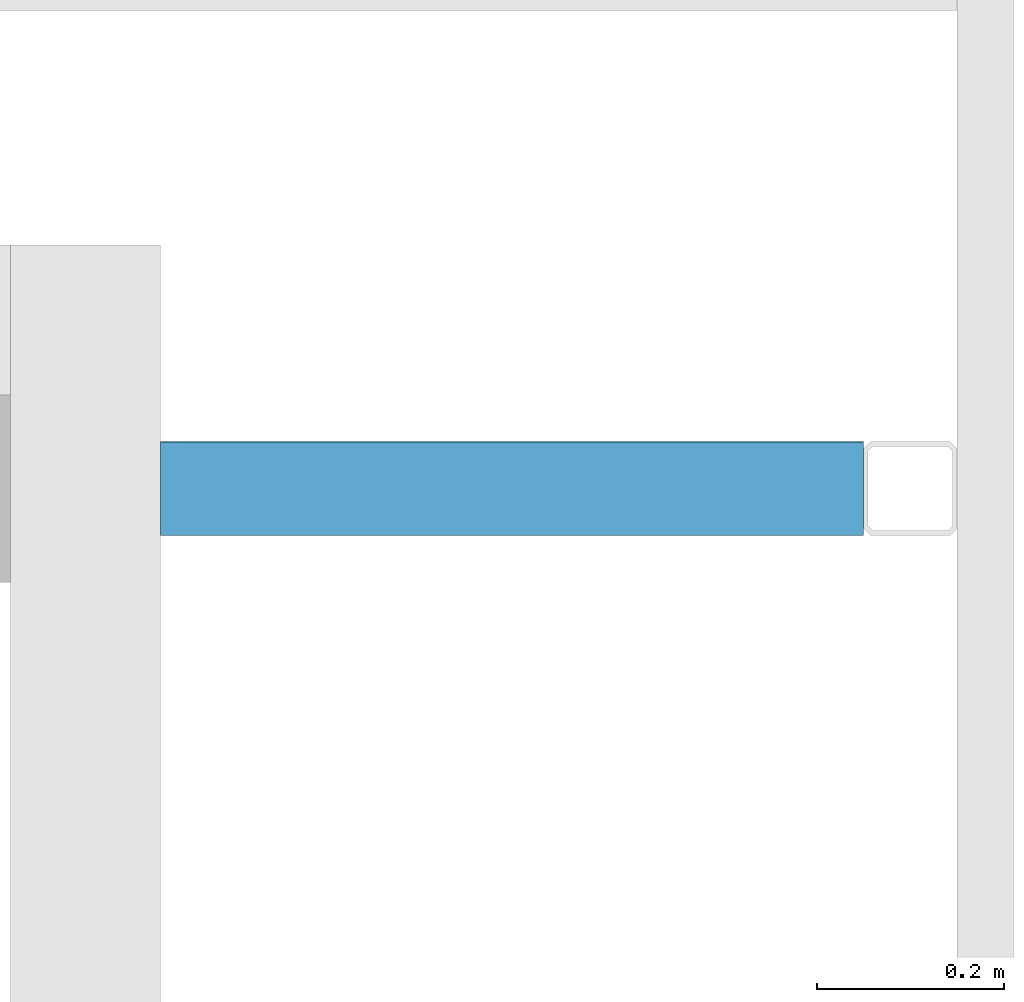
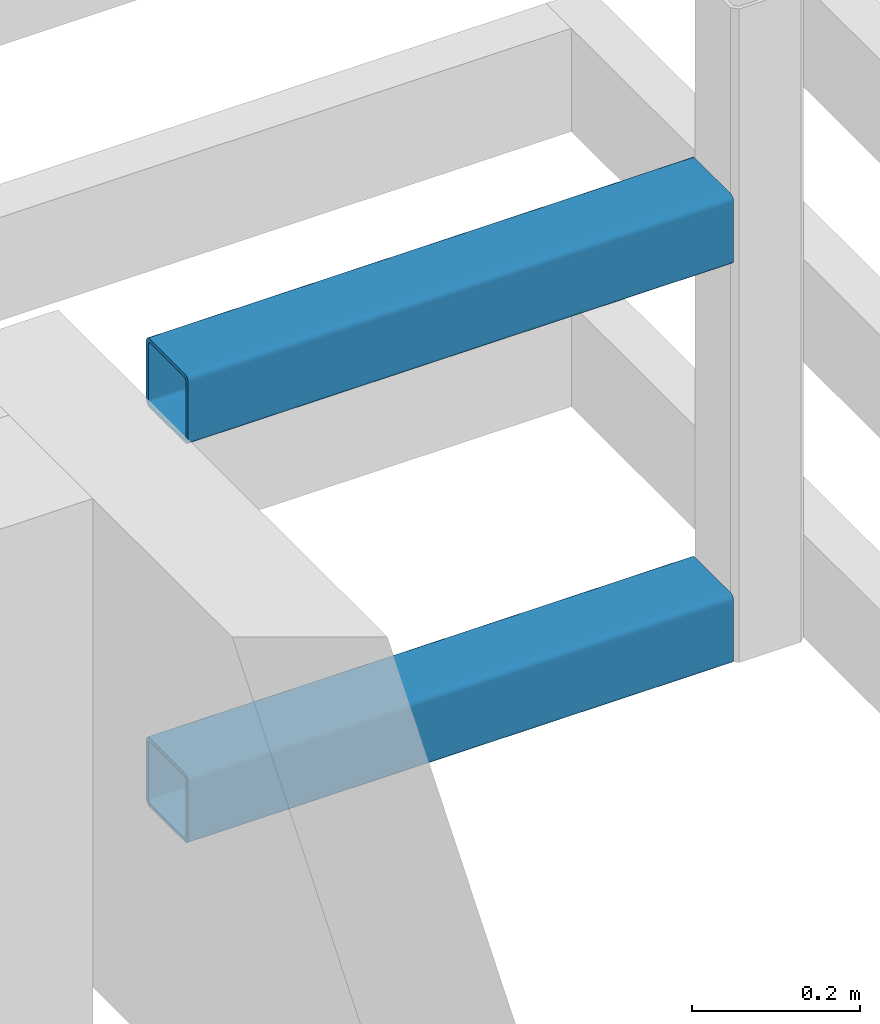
# One storey, part 42 of 42: 2 members.
"""IFC4 building model written with IfcOpenShell, lengths in metres."""

from ifc_helpers import new_model, entity, si_unit, converted_unit, derived_unit, frame, origin, place, context, subcontext, project, spatial, faceted_brep, material, element, save


model = new_model("IFC4")

# Units and contexts
model_context = context("Model", 3, precision=1e-05, world=origin())
plan_context = context("Plan", 2, precision=1e-05, world=origin())
body_context = subcontext(model_context, "Body", "Model", "MODEL_VIEW")
ifc_project = project(units=[si_unit("LENGTHUNIT", "METRE"), si_unit("AREAUNIT", "SQUARE_METRE"), si_unit("VOLUMEUNIT", "CUBIC_METRE"), si_unit("MASSUNIT", "GRAM", prefix="KILO"), converted_unit("PLANEANGLEUNIT", "DEGREE", entity("IfcPlaneAngleMeasure", 0.0174532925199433), si_unit("PLANEANGLEUNIT", "RADIAN"), dimensions=[0, 0, 0, 0, 0, 0, 0]), derived_unit("THERMALTRANSMITTANCEUNIT", [(si_unit("POWERUNIT", "WATT"), 1), (si_unit("THERMODYNAMICTEMPERATUREUNIT", "KELVIN"), -1), (si_unit("LENGTHUNIT", "METRE"), -2)]), derived_unit("VOLUMETRICFLOWRATEUNIT", [(si_unit("LENGTHUNIT", "METRE"), 3), (converted_unit("TIMEUNIT", "hour", entity("IfcTimeMeasure", 3600.0), si_unit("TIMEUNIT", "SECOND"), dimensions=[0, 0, 1, 0, 0, 0, 0]), -1), (si_unit("LENGTHUNIT", "METRE"), -1)])], contexts=[model_context, plan_context])

# Site, building, storey
site_placement = place(None, origin())
site = spatial("IfcSite", under=ifc_project, at=site_placement, Name="Site", CompositionType="ELEMENT")
building_placement = place(site_placement, origin())
building = spatial("IfcBuilding", under=site, at=building_placement, Name="Admin", CompositionType="ELEMENT")
storey_placement = place(building_placement, frame((0.0, 0.0, 6.61)))
storey = spatial("IfcBuildingStorey", under=building, at=storey_placement, Name="02-Etage2", CompositionType="ELEMENT", Elevation=6.61)

# Members
ifc_material_1 = material(Name="S235")
member_1_placement = place(storey_placement, frame((58.2197996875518, 22.0394493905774, 2.28)))
element("IfcMember", 1, at=member_1_placement, inside=storey, material=ifc_material_1, Name="Bandeau R+2", context=body_context, shape_type="Brep", body=[
    faceted_brep([(0.750000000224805, 0.0950000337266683, 0.09), (0.750000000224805, 0.0950000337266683, 0.01), (2.24834366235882e-10, 0.095, 0.01), (2.24834366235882e-10, 0.095, 0.09), (0.750000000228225, 0.094924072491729, 0.0908682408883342), (2.28254066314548e-10, 0.0949240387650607, 0.0908682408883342), (0.750000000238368, 0.0946984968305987, 0.0917101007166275), (2.3839675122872e-10, 0.0946984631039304, 0.0917101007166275), (0.750000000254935, 0.0943301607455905, 0.0925), (2.54964106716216e-10, 0.0943301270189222, 0.0925), (0.75000000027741, 0.0938302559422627, 0.0932139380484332), (2.77439539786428e-10, 0.0938302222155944, 0.0932139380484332), (0.750000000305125, 0.0932139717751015, 0.0938302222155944), (3.05153662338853e-10, 0.0932139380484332, 0.0938302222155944), (0.750000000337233, 0.0925000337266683, 0.0943301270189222), (3.37262463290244e-10, 0.0925, 0.0943301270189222), (0.750000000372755, 0.0917101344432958, 0.0946984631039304), (3.72783688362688e-10, 0.0917101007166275, 0.0946984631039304), (0.750000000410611, 0.0908682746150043, 0.0949240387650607), (4.10640495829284e-10, 0.090868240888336, 0.0949240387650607), (0.750000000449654, 0.0900000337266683, 0.095), (4.49683284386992e-10, 0.09, 0.095), (0.750000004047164, 0.0100000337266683, 0.095), (4.04719321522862e-09, 0.01, 0.095), (0.750000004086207, 0.00913179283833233, 0.0949240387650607), (4.08623600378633e-09, 0.009131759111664, 0.0949240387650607), (0.750000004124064, 0.00828993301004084, 0.0946984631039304), (4.12409281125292e-09, 0.00828989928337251, 0.0946984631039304), (0.750000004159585, 0.00750003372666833, 0.0943301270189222), (4.15961403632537e-09, 0.0075, 0.0943301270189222), (0.750000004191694, 0.00678609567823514, 0.0938302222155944), (4.19172283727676e-09, 0.00678606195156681, 0.0938302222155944), (0.750000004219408, 0.00616981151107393, 0.0932139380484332), (4.21943695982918e-09, 0.0061697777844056, 0.0932139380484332), (0.750000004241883, 0.00566990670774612, 0.0925), (4.24191239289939e-09, 0.00566987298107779, 0.0925), (0.750000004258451, 0.00530157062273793, 0.0917101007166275), (4.25847974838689e-09, 0.00530153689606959, 0.0917101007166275), (0.750000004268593, 0.00507599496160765, 0.0908682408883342), (4.26862243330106e-09, 0.00507596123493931, 0.0908682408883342), (0.750000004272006, 0.00500003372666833, 0.09), (4.27203485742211e-09, 0.005, 0.09), (0.750000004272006, 0.00500003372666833, 0.01), (4.27203485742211e-09, 0.005, 0.01), (0.750000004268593, 0.00507599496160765, 0.00913175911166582), (4.26862243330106e-09, 0.00507596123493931, 0.00913175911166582), (0.750000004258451, 0.00530157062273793, 0.00828989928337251), (4.25847974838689e-09, 0.00530153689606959, 0.00828989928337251), (0.750000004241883, 0.00566990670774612, 0.0075), (4.24191239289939e-09, 0.00566987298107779, 0.0075), (0.750000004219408, 0.00616981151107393, 0.00678606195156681), (4.21943695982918e-09, 0.0061697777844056, 0.00678606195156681), (0.750000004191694, 0.00678609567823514, 0.0061697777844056), (4.19172283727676e-09, 0.00678606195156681, 0.0061697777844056), (0.750000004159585, 0.00750003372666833, 0.00566987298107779), (4.15961403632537e-09, 0.0075, 0.00566987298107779), (0.750000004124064, 0.00828993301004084, 0.00530153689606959), (4.12409281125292e-09, 0.00828989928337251, 0.00530153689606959), (0.750000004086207, 0.00913179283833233, 0.00507596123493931), (4.08623600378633e-09, 0.009131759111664, 0.00507596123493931), (0.750000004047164, 0.0100000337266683, 0.005), (4.04719321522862e-09, 0.01, 0.005), (0.750000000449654, 0.0900000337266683, 0.005), (4.49683284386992e-10, 0.09, 0.005), (0.750000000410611, 0.0908682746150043, 0.00507596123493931), (4.10640495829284e-10, 0.090868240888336, 0.00507596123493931), (0.750000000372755, 0.0917101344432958, 0.00530153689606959), (3.72783688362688e-10, 0.0917101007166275, 0.00530153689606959), (0.750000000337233, 0.0925000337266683, 0.00566987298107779), (3.37262463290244e-10, 0.0925, 0.00566987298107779), (0.750000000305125, 0.0932139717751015, 0.0061697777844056), (3.05153662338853e-10, 0.0932139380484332, 0.0061697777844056), (0.75000000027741, 0.0938302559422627, 0.00678606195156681), (2.77439539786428e-10, 0.0938302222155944, 0.00678606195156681), (0.750000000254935, 0.0943301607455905, 0.0075), (2.54964106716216e-10, 0.0943301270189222, 0.0075), (0.750000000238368, 0.0946984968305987, 0.00828989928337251), (2.3839675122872e-10, 0.0946984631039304, 0.00828989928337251), (0.750000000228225, 0.094924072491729, 0.00913175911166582), (2.28254066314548e-10, 0.0949240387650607, 0.00913175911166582), (0.750000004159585, 0.00750003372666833, 0.1), (0.750000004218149, 0.00619767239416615, 0.099886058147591), (4.21817821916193e-09, 0.00619763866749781, 0.099886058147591), (4.15961403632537e-09, 0.0075, 0.1), (0.750000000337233, 0.0925000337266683, 0.1), (3.37262463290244e-10, 0.0925, 0.1), (0.750000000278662, 0.0938023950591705, 0.099886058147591), (2.78691004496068e-10, 0.0938023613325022, 0.099886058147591), (0.75000000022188, 0.0950651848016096, 0.0995476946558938), (2.2190943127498e-10, 0.0950651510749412, 0.0995476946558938), (0.750000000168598, 0.0962500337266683, 0.0989951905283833), (1.68627593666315e-10, 0.09625, 0.0989951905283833), (0.750000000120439, 0.0973209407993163, 0.0982453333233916), (1.20468030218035e-10, 0.097320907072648, 0.0982453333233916), (0.750000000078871, 0.0982453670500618, 0.0973209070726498), (7.89004843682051e-11, 0.0982453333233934, 0.0973209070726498), (0.750000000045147, 0.0989952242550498, 0.09625), (4.51764208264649e-11, 0.0989951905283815, 0.09625), (0.7500000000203, 0.099547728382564, 0.0950651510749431), (2.03290255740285e-11, 0.0995476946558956, 0.0950651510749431), (0.750000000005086, 0.0998860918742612, 0.0938023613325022), (5.11499820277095e-12, 0.0998860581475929, 0.0938023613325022), (0.749999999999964, 0.100000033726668, 0.0925), (0.0, 0.1, 0.0925), (0.750000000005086, 0.0998860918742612, 0.00619763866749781), (0.749999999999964, 0.100000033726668, 0.0075), (0.0, 0.1, 0.0075), (5.11499820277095e-12, 0.0998860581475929, 0.00619763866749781), (0.7500000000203, 0.099547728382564, 0.00493484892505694), (2.03290255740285e-11, 0.0995476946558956, 0.00493484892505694), (0.750000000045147, 0.0989952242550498, 0.00375), (4.51764208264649e-11, 0.0989951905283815, 0.00375), (0.750000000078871, 0.0982453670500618, 0.00267909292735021), (7.89004843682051e-11, 0.0982453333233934, 0.00267909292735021), (0.750000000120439, 0.0973209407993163, 0.00175466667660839), (1.20468030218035e-10, 0.097320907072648, 0.00175466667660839), (0.750000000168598, 0.0962500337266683, 0.00100480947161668), (1.68627593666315e-10, 0.09625, 0.00100480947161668), (0.75000000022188, 0.0950651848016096, 0.000452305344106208), (2.2190943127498e-10, 0.0950651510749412, 0.000452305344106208), (0.750000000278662, 0.0938023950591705, 0.000113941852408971), (2.78691004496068e-10, 0.0938023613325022, 0.000113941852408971), (0.750000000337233, 0.0925000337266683, 0.0), (3.37262463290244e-10, 0.0925, 0.0), (0.750000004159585, 0.00750003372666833, 0.0), (4.15961403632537e-09, 0.0075, 0.0), (0.750000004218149, 0.00619767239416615, 0.000113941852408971), (4.21817821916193e-09, 0.00619763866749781, 0.000113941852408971), (0.750000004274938, 0.00493488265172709, 0.000452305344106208), (4.27496706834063e-09, 0.00493484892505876, 0.000452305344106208), (0.75000000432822, 0.00375003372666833, 0.00100480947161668), (4.32824890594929e-09, 0.00375, 0.00100480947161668), (0.750000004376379, 0.00267912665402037, 0.00175466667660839), (4.37640846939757e-09, 0.00267909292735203, 0.00175466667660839), (0.750000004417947, 0.00175470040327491, 0.00267909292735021), (4.4179760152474e-09, 0.00175466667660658, 0.00267909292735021), (0.750000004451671, 0.00100484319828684, 0.00375), (4.45170007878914e-09, 0.0010048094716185, 0.00375), (0.750000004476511, 0.000452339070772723, 0.00493484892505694), (4.47654019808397e-09, 0.000452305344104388, 0.00493484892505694), (0.750000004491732, 0.000113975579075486, 0.00619763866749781), (4.49176150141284e-09, 0.000113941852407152, 0.00619763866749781), (0.750000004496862, 3.37266683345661e-08, 0.0075), (4.49688377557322e-09, 0.0, 0.0075), (0.750000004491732, 0.000113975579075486, 0.0938023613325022), (0.750000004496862, 3.37266683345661e-08, 0.0925), (4.49688377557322e-09, 0.0, 0.0925), (4.49176150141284e-09, 0.000113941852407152, 0.0938023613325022), (0.750000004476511, 0.000452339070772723, 0.0950651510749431), (4.47654019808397e-09, 0.000452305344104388, 0.0950651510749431), (0.750000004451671, 0.00100484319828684, 0.09625), (4.45170007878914e-09, 0.0010048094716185, 0.09625), (0.750000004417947, 0.00175470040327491, 0.0973209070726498), (4.4179760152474e-09, 0.00175466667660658, 0.0973209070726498), (0.750000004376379, 0.00267912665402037, 0.0982453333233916), (4.37640846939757e-09, 0.00267909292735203, 0.0982453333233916), (0.75000000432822, 0.00375003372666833, 0.0989951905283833), (4.32824890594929e-09, 0.00375, 0.0989951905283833), (0.750000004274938, 0.00493488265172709, 0.0995476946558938), (4.27496706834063e-09, 0.00493484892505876, 0.0995476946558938)], [[[0, 1, 2, 3]], [[4, 0, 3, 5]], [[6, 4, 5, 7]], [[8, 6, 7, 9]], [[10, 8, 9, 11]], [[12, 10, 11, 13]], [[14, 12, 13, 15]], [[16, 14, 15, 17]], [[18, 16, 17, 19]], [[20, 18, 19, 21]], [[22, 20, 21, 23]], [[24, 22, 23, 25]], [[26, 24, 25, 27]], [[28, 26, 27, 29]], [[30, 28, 29, 31]], [[32, 30, 31, 33]], [[34, 32, 33, 35]], [[36, 34, 35, 37]], [[38, 36, 37, 39]], [[40, 38, 39, 41]], [[42, 40, 41, 43]], [[44, 42, 43, 45]], [[46, 44, 45, 47]], [[48, 46, 47, 49]], [[50, 48, 49, 51]], [[52, 50, 51, 53]], [[54, 52, 53, 55]], [[56, 54, 55, 57]], [[58, 56, 57, 59]], [[60, 58, 59, 61]], [[62, 60, 61, 63]], [[64, 62, 63, 65]], [[66, 64, 65, 67]], [[68, 66, 67, 69]], [[70, 68, 69, 71]], [[72, 70, 71, 73]], [[74, 72, 73, 75]], [[76, 74, 75, 77]], [[78, 76, 77, 79]], [[1, 78, 79, 2]], [[80, 81, 82, 83]], [[84, 80, 83, 85]], [[86, 84, 85, 87]], [[88, 86, 87, 89]], [[90, 88, 89, 91]], [[92, 90, 91, 93]], [[94, 92, 93, 95]], [[96, 94, 95, 97]], [[98, 96, 97, 99]], [[100, 98, 99, 101]], [[102, 100, 101, 103]], [[104, 105, 106, 107]], [[108, 104, 107, 109]], [[110, 108, 109, 111]], [[112, 110, 111, 113]], [[114, 112, 113, 115]], [[116, 114, 115, 117]], [[118, 116, 117, 119]], [[120, 118, 119, 121]], [[122, 120, 121, 123]], [[124, 122, 123, 125]], [[126, 124, 125, 127]], [[128, 126, 127, 129]], [[130, 128, 129, 131]], [[132, 130, 131, 133]], [[134, 132, 133, 135]], [[136, 134, 135, 137]], [[138, 136, 137, 139]], [[140, 138, 139, 141]], [[142, 140, 141, 143]], [[144, 145, 146, 147]], [[148, 144, 147, 149]], [[150, 148, 149, 151]], [[152, 150, 151, 153]], [[154, 152, 153, 155]], [[156, 154, 155, 157]], [[158, 156, 157, 159]], [[81, 158, 159, 82]], [[146, 143, 141, 139, 137, 135, 133, 131, 129, 127, 125, 123, 121, 119, 117, 115, 113, 111, 109, 107, 106, 103, 101, 99, 97, 95, 93, 91, 89, 87, 85, 83, 82, 159, 157, 155, 153, 151, 149, 147], [2, 79, 77, 75, 73, 71, 69, 67, 65, 63, 61, 59, 57, 55, 53, 51, 49, 47, 45, 43, 41, 39, 37, 35, 33, 31, 29, 27, 25, 23, 21, 19, 17, 15, 13, 11, 9, 7, 5, 3]], [[103, 106, 105, 102]], [[102, 105, 104, 108, 110, 112, 114, 116, 118, 120, 122, 124, 126, 128, 130, 132, 134, 136, 138, 140, 142, 145, 144, 148, 150, 152, 154, 156, 158, 81, 80, 84, 86, 88, 90, 92, 94, 96, 98, 100], [1, 0, 4, 6, 8, 10, 12, 14, 16, 18, 20, 22, 24, 26, 28, 30, 32, 34, 36, 38, 40, 42, 44, 46, 48, 50, 52, 54, 56, 58, 60, 62, 64, 66, 68, 70, 72, 74, 76, 78]], [[145, 142, 143, 146]]], orient=[[False], [False], [False], [False], [False], [False], [False], [False], [False], [False], [False], [False], [False], [False], [False], [False], [False], [False], [False], [False], [False], [False], [False], [False], [False], [False], [False], [False], [False], [False], [False], [False], [False], [False], [False], [False], [False], [False], [False], [False], [False], [False], [False], [False], [False], [False], [False], [False], [False], [False], [False], [False], [False], [False], [False], [False], [False], [False], [False], [False], [False], [False], [False], [False], [False], [False], [False], [False], [False], [False], [False], [False], [False], [False], [False], [False], [False], [False], [False, False], [False], [False, False], [False]]),
])
ifc_material_2 = material(Name="S235")
member_2_placement = place(storey_placement, frame((58.2197996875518, 22.0394493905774, 2.86)))
element("IfcMember", 2, at=member_2_placement, inside=storey, material=ifc_material_2, Name="Bandeau R+2", context=body_context, shape_type="Brep", body=[
    faceted_brep([(0.75000000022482, 0.0950000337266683, 0.09), (0.75000000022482, 0.0950000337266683, 0.01), (2.24827090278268e-10, 0.095, 0.01), (2.24827090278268e-10, 0.095, 0.09), (0.75000000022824, 0.094924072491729, 0.0908682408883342), (2.28246790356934e-10, 0.0949240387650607, 0.0908682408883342), (0.750000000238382, 0.0946984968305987, 0.0917101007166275), (2.38389475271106e-10, 0.0946984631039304, 0.0917101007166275), (0.75000000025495, 0.0943301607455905, 0.0925), (2.54956830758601e-10, 0.0943301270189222, 0.0925), (0.750000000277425, 0.0938302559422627, 0.0932139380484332), (2.77432263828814e-10, 0.0938302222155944, 0.0932139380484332), (0.750000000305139, 0.0932139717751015, 0.0938302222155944), (3.05146386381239e-10, 0.0932139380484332, 0.0938302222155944), (0.750000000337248, 0.0925000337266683, 0.0943301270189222), (3.3725518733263e-10, 0.0925, 0.0943301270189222), (0.750000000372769, 0.0917101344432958, 0.0946984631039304), (3.72776412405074e-10, 0.0917101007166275, 0.0946984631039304), (0.750000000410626, 0.0908682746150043, 0.0949240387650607), (4.1063321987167e-10, 0.090868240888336, 0.0949240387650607), (0.750000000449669, 0.0900000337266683, 0.095), (4.49676008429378e-10, 0.09, 0.095), (0.750000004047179, 0.0100000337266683, 0.095), (4.047185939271e-09, 0.01, 0.095), (0.750000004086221, 0.00913179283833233, 0.0949240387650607), (4.08622872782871e-09, 0.009131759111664, 0.0949240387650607), (0.750000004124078, 0.00828993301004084, 0.0946984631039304), (4.12408553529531e-09, 0.00828989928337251, 0.0946984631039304), (0.7500000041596, 0.00750003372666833, 0.0943301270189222), (4.15960676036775e-09, 0.0075, 0.0943301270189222), (0.750000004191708, 0.00678609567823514, 0.0938302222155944), (4.19171556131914e-09, 0.00678606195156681, 0.0938302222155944), (0.750000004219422, 0.00616981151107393, 0.0932139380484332), (4.21942968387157e-09, 0.0061697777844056, 0.0932139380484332), (0.750000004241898, 0.00566990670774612, 0.0925), (4.24190511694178e-09, 0.00566987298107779, 0.0925), (0.750000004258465, 0.00530157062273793, 0.0917101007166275), (4.25847247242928e-09, 0.00530153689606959, 0.0917101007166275), (0.750000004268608, 0.00507599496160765, 0.0908682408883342), (4.26861515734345e-09, 0.00507596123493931, 0.0908682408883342), (0.75000000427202, 0.00500003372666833, 0.09), (4.2720275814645e-09, 0.005, 0.09), (0.75000000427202, 0.00500003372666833, 0.01), (4.2720275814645e-09, 0.005, 0.01), (0.750000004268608, 0.00507599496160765, 0.00913175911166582), (4.26861515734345e-09, 0.00507596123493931, 0.00913175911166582), (0.750000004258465, 0.00530157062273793, 0.00828989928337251), (4.25847247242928e-09, 0.00530153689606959, 0.00828989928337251), (0.750000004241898, 0.00566990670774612, 0.0075), (4.24190511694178e-09, 0.00566987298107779, 0.0075), (0.750000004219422, 0.00616981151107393, 0.00678606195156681), (4.21942968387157e-09, 0.0061697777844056, 0.00678606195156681), (0.750000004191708, 0.00678609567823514, 0.0061697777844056), (4.19171556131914e-09, 0.00678606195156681, 0.0061697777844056), (0.7500000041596, 0.00750003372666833, 0.00566987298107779), (4.15960676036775e-09, 0.0075, 0.00566987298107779), (0.750000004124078, 0.00828993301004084, 0.00530153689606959), (4.12408553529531e-09, 0.00828989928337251, 0.00530153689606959), (0.750000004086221, 0.00913179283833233, 0.00507596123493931), (4.08622872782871e-09, 0.009131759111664, 0.00507596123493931), (0.750000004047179, 0.0100000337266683, 0.005), (4.047185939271e-09, 0.01, 0.005), (0.750000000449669, 0.0900000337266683, 0.005), (4.49676008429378e-10, 0.09, 0.005), (0.750000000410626, 0.0908682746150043, 0.00507596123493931), (4.1063321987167e-10, 0.090868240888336, 0.00507596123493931), (0.750000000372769, 0.0917101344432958, 0.00530153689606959), (3.72776412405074e-10, 0.0917101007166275, 0.00530153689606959), (0.750000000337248, 0.0925000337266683, 0.00566987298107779), (3.3725518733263e-10, 0.0925, 0.00566987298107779), (0.750000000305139, 0.0932139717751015, 0.0061697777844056), (3.05146386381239e-10, 0.0932139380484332, 0.0061697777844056), (0.750000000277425, 0.0938302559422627, 0.00678606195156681), (2.77432263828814e-10, 0.0938302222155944, 0.00678606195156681), (0.75000000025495, 0.0943301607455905, 0.0075), (2.54956830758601e-10, 0.0943301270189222, 0.0075), (0.750000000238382, 0.0946984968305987, 0.00828989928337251), (2.38389475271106e-10, 0.0946984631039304, 0.00828989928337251), (0.75000000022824, 0.094924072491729, 0.00913175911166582), (2.28246790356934e-10, 0.0949240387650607, 0.00913175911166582), (0.7500000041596, 0.00750003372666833, 0.1), (0.750000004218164, 0.00619767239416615, 0.099886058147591), (4.21817094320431e-09, 0.00619763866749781, 0.099886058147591), (4.15960676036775e-09, 0.0075, 0.1), (0.750000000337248, 0.0925000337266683, 0.1), (3.3725518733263e-10, 0.0925, 0.1), (0.750000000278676, 0.0938023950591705, 0.099886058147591), (2.78683728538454e-10, 0.0938023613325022, 0.099886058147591), (0.750000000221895, 0.0950651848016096, 0.0995476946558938), (2.21902155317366e-10, 0.0950651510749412, 0.0995476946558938), (0.750000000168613, 0.0962500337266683, 0.0989951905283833), (1.68620317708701e-10, 0.09625, 0.0989951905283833), (0.750000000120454, 0.0973209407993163, 0.0982453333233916), (1.20460754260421e-10, 0.097320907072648, 0.0982453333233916), (0.750000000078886, 0.0982453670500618, 0.0973209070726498), (7.88932084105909e-11, 0.0982453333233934, 0.0973209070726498), (0.750000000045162, 0.0989952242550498, 0.09625), (4.51691448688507e-11, 0.0989951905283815, 0.09625), (0.750000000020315, 0.099547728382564, 0.0950651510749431), (2.03217496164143e-11, 0.0995476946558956, 0.0950651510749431), (0.7500000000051, 0.0998860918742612, 0.0938023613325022), (5.10772224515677e-12, 0.0998860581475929, 0.0938023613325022), (0.749999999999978, 0.100000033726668, 0.0925), (0.0, 0.1, 0.0925), (0.7500000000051, 0.0998860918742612, 0.00619763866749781), (0.749999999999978, 0.100000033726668, 0.0075), (0.0, 0.1, 0.0075), (5.10772224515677e-12, 0.0998860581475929, 0.00619763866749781), (0.750000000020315, 0.099547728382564, 0.00493484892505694), (2.03217496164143e-11, 0.0995476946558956, 0.00493484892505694), (0.750000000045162, 0.0989952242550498, 0.00375), (4.51691448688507e-11, 0.0989951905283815, 0.00375), (0.750000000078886, 0.0982453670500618, 0.00267909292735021), (7.88932084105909e-11, 0.0982453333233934, 0.00267909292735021), (0.750000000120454, 0.0973209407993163, 0.00175466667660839), (1.20460754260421e-10, 0.097320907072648, 0.00175466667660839), (0.750000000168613, 0.0962500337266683, 0.00100480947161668), (1.68620317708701e-10, 0.09625, 0.00100480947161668), (0.750000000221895, 0.0950651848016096, 0.000452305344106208), (2.21902155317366e-10, 0.0950651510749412, 0.000452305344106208), (0.750000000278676, 0.0938023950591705, 0.000113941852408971), (2.78683728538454e-10, 0.0938023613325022, 0.000113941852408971), (0.750000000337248, 0.0925000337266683, 0.0), (3.3725518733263e-10, 0.0925, 0.0), (0.7500000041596, 0.00750003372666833, 0.0), (4.15960676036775e-09, 0.0075, 0.0), (0.750000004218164, 0.00619767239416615, 0.000113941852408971), (4.21817094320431e-09, 0.00619763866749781, 0.000113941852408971), (0.750000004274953, 0.00493488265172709, 0.000452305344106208), (4.27495979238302e-09, 0.00493484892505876, 0.000452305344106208), (0.750000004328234, 0.00375003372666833, 0.00100480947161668), (4.32824162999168e-09, 0.00375, 0.00100480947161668), (0.750000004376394, 0.00267912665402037, 0.00175466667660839), (4.37640119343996e-09, 0.00267909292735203, 0.00175466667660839), (0.750000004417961, 0.00175470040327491, 0.00267909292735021), (4.41796873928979e-09, 0.00175466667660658, 0.00267909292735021), (0.750000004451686, 0.00100484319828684, 0.00375), (4.45169280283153e-09, 0.0010048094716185, 0.00375), (0.750000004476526, 0.000452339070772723, 0.00493484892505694), (4.47653292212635e-09, 0.000452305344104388, 0.00493484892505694), (0.750000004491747, 0.000113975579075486, 0.00619763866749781), (4.49175422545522e-09, 0.000113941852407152, 0.00619763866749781), (0.750000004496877, 3.37266683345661e-08, 0.0075), (4.49688377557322e-09, 0.0, 0.0075), (0.750000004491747, 0.000113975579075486, 0.0938023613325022), (0.750000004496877, 3.37266683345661e-08, 0.0925), (4.49688377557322e-09, 0.0, 0.0925), (4.49175422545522e-09, 0.000113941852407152, 0.0938023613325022), (0.750000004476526, 0.000452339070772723, 0.0950651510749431), (4.47653292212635e-09, 0.000452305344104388, 0.0950651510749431), (0.750000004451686, 0.00100484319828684, 0.09625), (4.45169280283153e-09, 0.0010048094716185, 0.09625), (0.750000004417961, 0.00175470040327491, 0.0973209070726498), (4.41796873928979e-09, 0.00175466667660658, 0.0973209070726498), (0.750000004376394, 0.00267912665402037, 0.0982453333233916), (4.37640119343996e-09, 0.00267909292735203, 0.0982453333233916), (0.750000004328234, 0.00375003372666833, 0.0989951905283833), (4.32824162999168e-09, 0.00375, 0.0989951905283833), (0.750000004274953, 0.00493488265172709, 0.0995476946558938), (4.27495979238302e-09, 0.00493484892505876, 0.0995476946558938)], [[[0, 1, 2, 3]], [[4, 0, 3, 5]], [[6, 4, 5, 7]], [[8, 6, 7, 9]], [[10, 8, 9, 11]], [[12, 10, 11, 13]], [[14, 12, 13, 15]], [[16, 14, 15, 17]], [[18, 16, 17, 19]], [[20, 18, 19, 21]], [[22, 20, 21, 23]], [[24, 22, 23, 25]], [[26, 24, 25, 27]], [[28, 26, 27, 29]], [[30, 28, 29, 31]], [[32, 30, 31, 33]], [[34, 32, 33, 35]], [[36, 34, 35, 37]], [[38, 36, 37, 39]], [[40, 38, 39, 41]], [[42, 40, 41, 43]], [[44, 42, 43, 45]], [[46, 44, 45, 47]], [[48, 46, 47, 49]], [[50, 48, 49, 51]], [[52, 50, 51, 53]], [[54, 52, 53, 55]], [[56, 54, 55, 57]], [[58, 56, 57, 59]], [[60, 58, 59, 61]], [[62, 60, 61, 63]], [[64, 62, 63, 65]], [[66, 64, 65, 67]], [[68, 66, 67, 69]], [[70, 68, 69, 71]], [[72, 70, 71, 73]], [[74, 72, 73, 75]], [[76, 74, 75, 77]], [[78, 76, 77, 79]], [[1, 78, 79, 2]], [[80, 81, 82, 83]], [[84, 80, 83, 85]], [[86, 84, 85, 87]], [[88, 86, 87, 89]], [[90, 88, 89, 91]], [[92, 90, 91, 93]], [[94, 92, 93, 95]], [[96, 94, 95, 97]], [[98, 96, 97, 99]], [[100, 98, 99, 101]], [[102, 100, 101, 103]], [[104, 105, 106, 107]], [[108, 104, 107, 109]], [[110, 108, 109, 111]], [[112, 110, 111, 113]], [[114, 112, 113, 115]], [[116, 114, 115, 117]], [[118, 116, 117, 119]], [[120, 118, 119, 121]], [[122, 120, 121, 123]], [[124, 122, 123, 125]], [[126, 124, 125, 127]], [[128, 126, 127, 129]], [[130, 128, 129, 131]], [[132, 130, 131, 133]], [[134, 132, 133, 135]], [[136, 134, 135, 137]], [[138, 136, 137, 139]], [[140, 138, 139, 141]], [[142, 140, 141, 143]], [[144, 145, 146, 147]], [[148, 144, 147, 149]], [[150, 148, 149, 151]], [[152, 150, 151, 153]], [[154, 152, 153, 155]], [[156, 154, 155, 157]], [[158, 156, 157, 159]], [[81, 158, 159, 82]], [[146, 143, 141, 139, 137, 135, 133, 131, 129, 127, 125, 123, 121, 119, 117, 115, 113, 111, 109, 107, 106, 103, 101, 99, 97, 95, 93, 91, 89, 87, 85, 83, 82, 159, 157, 155, 153, 151, 149, 147], [2, 79, 77, 75, 73, 71, 69, 67, 65, 63, 61, 59, 57, 55, 53, 51, 49, 47, 45, 43, 41, 39, 37, 35, 33, 31, 29, 27, 25, 23, 21, 19, 17, 15, 13, 11, 9, 7, 5, 3]], [[103, 106, 105, 102]], [[102, 105, 104, 108, 110, 112, 114, 116, 118, 120, 122, 124, 126, 128, 130, 132, 134, 136, 138, 140, 142, 145, 144, 148, 150, 152, 154, 156, 158, 81, 80, 84, 86, 88, 90, 92, 94, 96, 98, 100], [1, 0, 4, 6, 8, 10, 12, 14, 16, 18, 20, 22, 24, 26, 28, 30, 32, 34, 36, 38, 40, 42, 44, 46, 48, 50, 52, 54, 56, 58, 60, 62, 64, 66, 68, 70, 72, 74, 76, 78]], [[145, 142, 143, 146]]], orient=[[False], [False], [False], [False], [False], [False], [False], [False], [False], [False], [False], [False], [False], [False], [False], [False], [False], [False], [False], [False], [False], [False], [False], [False], [False], [False], [False], [False], [False], [False], [False], [False], [False], [False], [False], [False], [False], [False], [False], [False], [False], [False], [False], [False], [False], [False], [False], [False], [False], [False], [False], [False], [False], [False], [False], [False], [False], [False], [False], [False], [False], [False], [False], [False], [False], [False], [False], [False], [False], [False], [False], [False], [False], [False], [False], [False], [False], [False], [False, False], [False], [False, False], [False]]),
])

save(model, "model.ifc")
